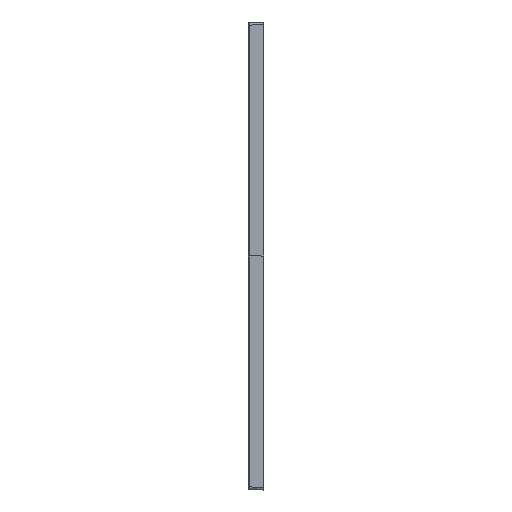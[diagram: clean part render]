
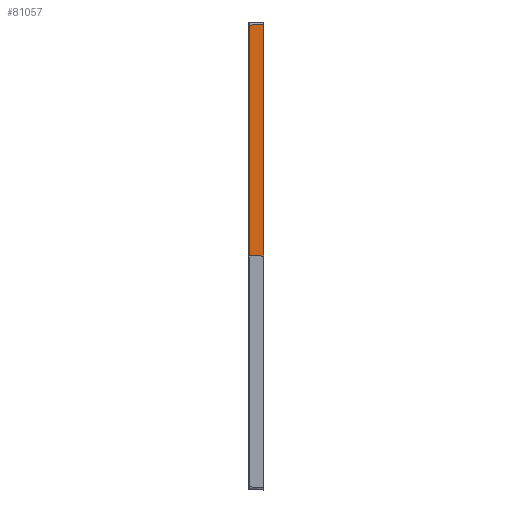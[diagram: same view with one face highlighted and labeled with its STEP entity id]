
A CAD part, left-side view. The second image highlights one B-rep face of the part: STEP entity #81057.
In plain terms, the highlighted free-form (B-spline) face has degree [5, 1] with [6, 2] control points.
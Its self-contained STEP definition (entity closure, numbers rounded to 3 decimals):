
#80909=CARTESIAN_POINT('Vertex',(-899.036,27.605,0.)) ;
#80912=CARTESIAN_POINT('Line Origine',(-899.036,27.605,224.536)) ;
#80916=CARTESIAN_POINT('Vertex',(-899.036,27.605,444.039)) ;
#81015=CARTESIAN_POINT('Control Point',(-896.51,99.939,450.)) ;
#81016=CARTESIAN_POINT('Control Point',(-900.,0.,450.)) ;
#81017=CARTESIAN_POINT('Control Point',(-896.51,99.939,360.)) ;
#81018=CARTESIAN_POINT('Control Point',(-900.,0.,360.)) ;
#81019=CARTESIAN_POINT('Control Point',(-896.51,99.939,270.)) ;
#81020=CARTESIAN_POINT('Control Point',(-900.,0.,270.)) ;
#81021=CARTESIAN_POINT('Control Point',(-896.51,99.939,180.)) ;
#81022=CARTESIAN_POINT('Control Point',(-900.,0.,180.)) ;
#81023=CARTESIAN_POINT('Control Point',(-896.51,99.939,90.)) ;
#81024=CARTESIAN_POINT('Control Point',(-900.,0.,90.)) ;
#81025=CARTESIAN_POINT('Control Point',(-896.51,99.939,0.)) ;
#81026=CARTESIAN_POINT('Control Point',(-900.,0.,0.)) ;
#81028=CARTESIAN_POINT('Control Point',(-899.036,27.605,0.)) ;
#81029=CARTESIAN_POINT('Control Point',(-899.229,22.084,0.)) ;
#81030=CARTESIAN_POINT('Control Point',(-899.422,16.563,0.)) ;
#81031=CARTESIAN_POINT('Control Point',(-899.614,11.042,0.)) ;
#81032=CARTESIAN_POINT('Control Point',(-899.807,5.521,0.)) ;
#81033=CARTESIAN_POINT('Control Point',(-900.,0.,0.)) ;
#81034=CARTESIAN_POINT('Vertex',(-900.,0.,0.)) ;
#81038=CARTESIAN_POINT('Control Point',(-900.,0.,445.003)) ;
#81039=CARTESIAN_POINT('Control Point',(-900.,0.,356.002)) ;
#81040=CARTESIAN_POINT('Control Point',(-900.,0.,267.002)) ;
#81041=CARTESIAN_POINT('Control Point',(-900.,0.,178.001)) ;
#81042=CARTESIAN_POINT('Control Point',(-900.,0.,89.001)) ;
#81043=CARTESIAN_POINT('Control Point',(-900.,0.,0.)) ;
#81044=CARTESIAN_POINT('Vertex',(-900.,0.,445.003)) ;
#81048=CARTESIAN_POINT('Control Point',(-900.,0.,445.003)) ;
#81049=CARTESIAN_POINT('Control Point',(-899.036,27.605,444.039)) ;
#80913=DIRECTION('Vector Direction',(0.,0.,-1.)) ;
#80914=VECTOR('Line Direction',#80913,1.) ;
#81052=ORIENTED_EDGE('',*,*,#81036,.T.) ;
#81053=ORIENTED_EDGE('',*,*,#81046,.F.) ;
#81054=ORIENTED_EDGE('',*,*,#81050,.F.) ;
#81055=ORIENTED_EDGE('',*,*,#80918,.F.) ;
#81057=ADVANCED_FACE('PD 180 X90 H3',(#81056),#81014,.T.) ;
#81027=B_SPLINE_CURVE_WITH_KNOTS('',5,(#81028,#81029,#81030,#81031,#81032,#81033),.UNSPECIFIED.,.F.,.U.,(6,6),(72.378,100.),.UNSPECIFIED.) ;
#81037=B_SPLINE_CURVE_WITH_KNOTS('',5,(#81038,#81039,#81040,#81041,#81042,#81043),.UNSPECIFIED.,.F.,.U.,(6,6),(4.997,450.),.UNSPECIFIED.) ;
#81047=B_SPLINE_CURVE_WITH_KNOTS('',1,(#81048,#81049),.UNSPECIFIED.,.F.,.U.,(2,2),(-15.269,12.37),.UNSPECIFIED.) ;
#81014=B_SPLINE_SURFACE_WITH_KNOTS('',5,1,((#81015,#81016),(#81017,#81018),(#81019,#81020),(#81021,#81022),(#81023,#81024),(#81025,#81026)),.UNSPECIFIED.,.F.,.F.,.U.,(6,6),(2,2),(0.,450.),(0.,100.),.UNSPECIFIED.) ;
#80918=EDGE_CURVE('',#80910,#80917,#80915,.F.) ;
#81036=EDGE_CURVE('',#80910,#81035,#81027,.T.) ;
#81046=EDGE_CURVE('',#81045,#81035,#81037,.T.) ;
#81050=EDGE_CURVE('',#80917,#81045,#81047,.F.) ;
#81051=EDGE_LOOP('',(#81052,#81053,#81054,#81055)) ;
#81056=FACE_OUTER_BOUND('',#81051,.T.) ;
#80915=LINE('Line',#80912,#80914) ;
#80910=VERTEX_POINT('',#80909) ;
#80917=VERTEX_POINT('',#80916) ;
#81035=VERTEX_POINT('',#81034) ;
#81045=VERTEX_POINT('',#81044) ;
